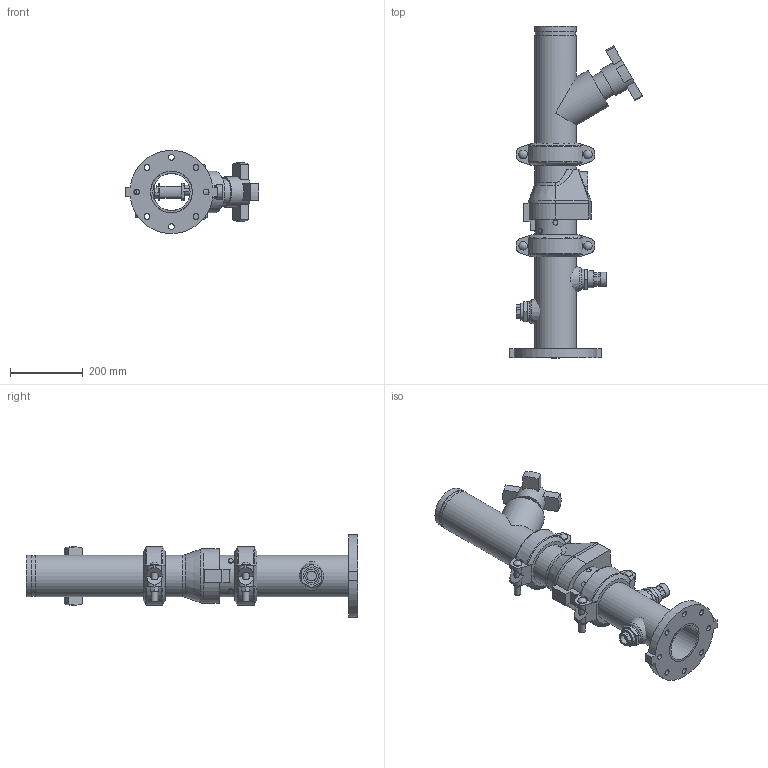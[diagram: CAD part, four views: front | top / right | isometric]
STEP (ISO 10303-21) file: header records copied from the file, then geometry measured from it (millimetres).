
FILE_DESCRIPTION(/* description */ ('VIC DVI PUMP DROP VERT S/383 (OGSxFLG) (S/924-0.75)','CAx-IF Rec.Pracs.---Representation and Presentation of Product Manufacturing Information (PMI)---4.0---2014-10-13'),/* implementation_level */ '2;1');
FILE_NAME(/* name */ 'C:\Users\Public\Documents\Victaulic.Temp\A849\Victaulic_IPS_Vertical DVI_CL 150_Series 383 (OGSxFLG)_924 (0.75)_04.0x04.0 (100x100).stp',/* time_stamp */ '2022-07-25T11:39:11+02:00',/* author */ ('Vjadhav'),/* organization */ ('Victaulic'),/* preprocessor_version */ 'ST-DEVELOPER v18',/* originating_system */ 'Autodesk Inventor 2020',/* authorisation */ '');
FILE_SCHEMA (('AP242_MANAGED_MODEL_BASED_3D_ENGINEERING_MIM_LF { 1 0 10303 442 1 1 4 }'));
Length unit declared in the file: inch
Products named in the file (8): 383_924 (0.75)-04.0x04.0; 741-04.0; Pipe-04.0; 177N-04.0; 789-04.0; 779-04.0; 924-04.0x0.75; 923-04.0x0.75
Assembly tree (8 placements, depth 2):
  383_924 (0.75)-04.0x04.0
    741-04.0
    Pipe-04.0
    177N-04.0  x2
    789-04.0
    779-04.0
    924-04.0x0.75
    923-04.0x0.75
Bounding box: 366.78 x 911.35 x 227.76 mm (x, y, z)
Volume: 6997244.7 mm3; surface area: 1119922.2 mm2
Topology: 8 solids, 8 shells, 426 faces, 1135 edges, 758 vertices
Faces by surface type: plane 249, cylinder 144, torus 14, cone 13, sphere 4, bspline 2
Full cylindrical faces by diameter (mm): 13.716 x2, 15.875 x8, 17.424 x4, 23.495 x4, 26.67 x2, 38.608 x1, 45.974 x4, 55.626 x2, 72.39 x1, 82.55 x1, 101.6 x2, 102.26 x3, 110.084 x6, 114.3 x16
Entity records: 11608 total; most frequent: CARTESIAN_POINT 2369, DIRECTION 1895, ORIENTED_EDGE 1748, EDGE_CURVE 874, AXIS2_PLACEMENT_3D 714, VERTEX_POINT 586, LINE 467, VECTOR 467
